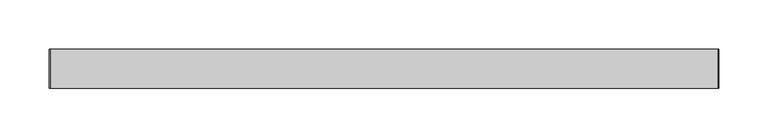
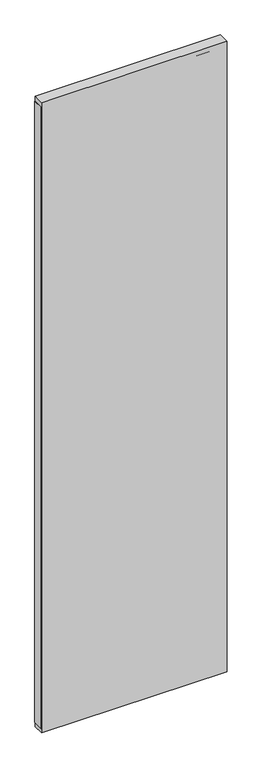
"""IFC4 building model written with IfcOpenShell, lengths in millimetres: plate geometry, Vitré."""

from ifc_helpers import new_model, si_unit, frame, origin, origin_with_axes, place, context, project, spatial, polyline, outline, extrude, source, transform, mapped, element, save


def plate_4b87088e(model_context):
    return source(origin(), model_context, "Body", "SweptSolid", [
        extrude(outline(polyline([(-339.6875, -20.0), (-339.6875, 20.0), (340.3125, 20.0), (340.3125, -20.0), (-339.6875, -20.0)])), origin_with_axes(), (0.0, 0.0, 1.0), 2442.375),
        extrude(outline(polyline([(341.3125, -20.0), (-341.3125, -20.0), (-341.3125, 20.0), (341.3125, 20.0), (341.3125, -20.0)])), frame((0.0, 0.0, 17.375), z_axis=(0.0, 0.0, 1.0), x_axis=(1.0, 0.0, 0.0)), (0.0, 0.0, 1.0), 2407.625),
    ])


if __name__ == "__main__":
    model = new_model("IFC4")
    model_context = context("Model", 3, world=origin())
    ifc_project = project(units=[si_unit("LENGTHUNIT", "METRE", prefix="MILLI")], contexts=[model_context])
    site = spatial("IfcSite", under=ifc_project)
    building = spatial("IfcBuilding", under=site)
    placement = place(None, origin())
    plate_shape = plate_4b87088e(model_context)
    element("IfcPlate", 1, ObjectType="Vitré", at=placement, inside=building, context=model_context, shape_type="MappedRepresentation", body=[
        mapped(plate_shape, transform((0.0, 0.0, 0.0), x_axis=(1.0, 0.0, 0.0), y_axis=(0.0, 1.0, 0.0), z_axis=(0.0, 0.0, 1.0))),
    ])
    save(model, "model.ifc")
